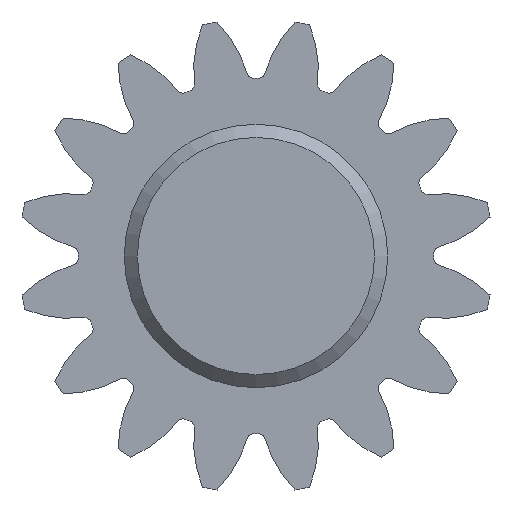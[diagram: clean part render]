
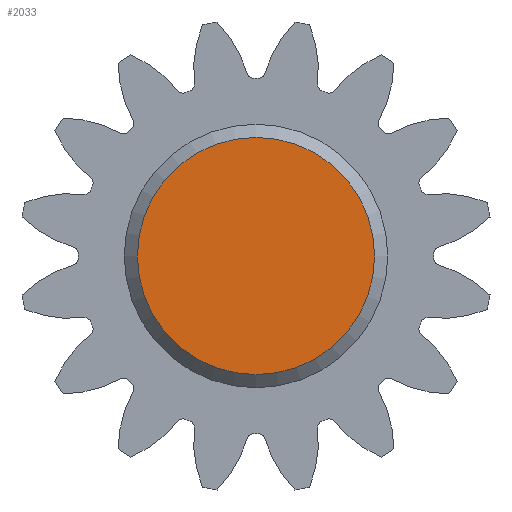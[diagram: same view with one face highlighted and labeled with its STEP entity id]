
A CAD part, left-side view. The second image highlights one B-rep face of the part: STEP entity #2033.
In plain terms, the highlighted planar face has unit normal (-1, 0, 0).
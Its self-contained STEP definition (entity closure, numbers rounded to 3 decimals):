
#350=PLANE('',#2179);
#362=FACE_OUTER_BOUND('',#478,.T.);
#478=EDGE_LOOP('',(#1386));
#598=CIRCLE('',#2176,9.);
#821=VERTEX_POINT('',#3307);
#1045=EDGE_CURVE('',#821,#821,#598,.T.);
#1386=ORIENTED_EDGE('',*,*,#1045,.F.);
#2033=ADVANCED_FACE('',(#362),#350,.T.);
#2176=AXIS2_PLACEMENT_3D('',#3309,#2525,#2526);
#2179=AXIS2_PLACEMENT_3D('',#3314,#2532,#2533);
#2525=DIRECTION('center_axis',(1.,0.,0.));
#2526=DIRECTION('ref_axis',(0.,-1.,0.));
#2532=DIRECTION('center_axis',(-1.,0.,0.));
#2533=DIRECTION('ref_axis',(0.,0.,1.));
#3307=CARTESIAN_POINT('',(-22.,9.,0.));
#3309=CARTESIAN_POINT('Origin',(-22.,0.,0.));
#3314=CARTESIAN_POINT('Origin',(-22.,10.,0.));
